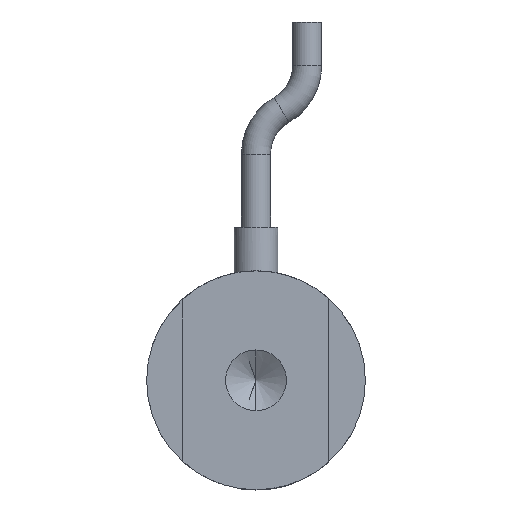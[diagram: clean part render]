
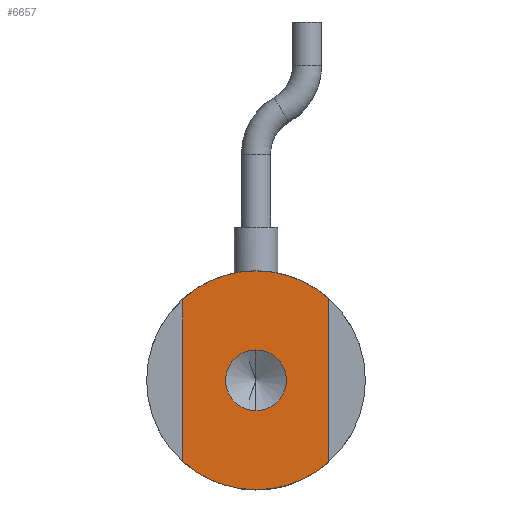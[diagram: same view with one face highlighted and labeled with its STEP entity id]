
A CAD part, front view. The second image highlights one B-rep face of the part: STEP entity #6657.
In plain terms, the highlighted planar face has unit normal (0, -1, 0).
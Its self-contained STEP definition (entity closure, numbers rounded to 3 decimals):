
#30 = DIRECTION ( 'NONE',  ( 0., -1., 0. ) ) ;
#76 = VECTOR ( 'NONE', #34519, 1000. ) ;
#101 = EDGE_CURVE ( 'NONE', #41810, #19982, #10745, .T. ) ;
#2604 = CARTESIAN_POINT ( 'NONE',  ( 3., 4.688, 3.459 ) ) ;
#5998 = EDGE_CURVE ( 'NONE', #21255, #16911, #39666, .T. ) ;
#6657 = ADVANCED_FACE ( 'NONE', ( #23581, #24599 ), #11957, .F. ) ;
#7547 = CARTESIAN_POINT ( 'NONE',  ( 0.007, 4.688, 1.349 ) ) ;
#8764 = CARTESIAN_POINT ( 'NONE',  ( 0.007, 4.688, 0.099 ) ) ;
#9804 = CARTESIAN_POINT ( 'NONE',  ( 0.007, 4.688, 4.599 ) ) ;
#9846 = CIRCLE ( 'NONE', #31131, 4.5 ) ;
#9889 = ORIENTED_EDGE ( 'NONE', *, *, #20505, .F. ) ;
#10745 = CIRCLE ( 'NONE', #13349, 4.5 ) ;
#11957 = PLANE ( 'NONE',  #35367 ) ;
#12097 = DIRECTION ( 'NONE',  ( 0., 1., 0. ) ) ;
#12255 = ORIENTED_EDGE ( 'NONE', *, *, #25620, .F. ) ;
#12320 = CARTESIAN_POINT ( 'NONE',  ( -3., 4.688, 3.447 ) ) ;
#12669 = EDGE_CURVE ( 'NONE', #35038, #39206, #26523, .T. ) ;
#12833 = VERTEX_POINT ( 'NONE', #15511 ) ;
#12847 = CARTESIAN_POINT ( 'NONE',  ( 0.007, 4.688, 0.099 ) ) ;
#13349 = AXIS2_PLACEMENT_3D ( 'NONE', #37969, #34771, #21567 ) ;
#13483 = CIRCLE ( 'NONE', #32752, 4.5 ) ;
#13877 = CIRCLE ( 'NONE', #38932, 1.25 ) ;
#14525 = LINE ( 'NONE', #18596, #33189 ) ;
#15511 = CARTESIAN_POINT ( 'NONE',  ( 3., 4.688, -3.262 ) ) ;
#16162 = DIRECTION ( 'NONE',  ( 0., 0., 1. ) ) ;
#16581 = DIRECTION ( 'NONE',  ( 0., 1., 0. ) ) ;
#16800 = CARTESIAN_POINT ( 'NONE',  ( 0.007, 4.688, -4.401 ) ) ;
#16911 = VERTEX_POINT ( 'NONE', #42939 ) ;
#17274 = ORIENTED_EDGE ( 'NONE', *, *, #38893, .F. ) ;
#17688 = AXIS2_PLACEMENT_3D ( 'NONE', #12847, #36027, #16162 ) ;
#18022 = DIRECTION ( 'NONE',  ( 0., -1., 0. ) ) ;
#18366 = DIRECTION ( 'NONE',  ( 0., 1., 0. ) ) ;
#18596 = CARTESIAN_POINT ( 'NONE',  ( 3., 4.688, -16.289 ) ) ;
#19245 = ORIENTED_EDGE ( 'NONE', *, *, #12669, .T. ) ;
#19852 = CARTESIAN_POINT ( 'NONE',  ( 0.007, 4.688, 0.099 ) ) ;
#19982 = VERTEX_POINT ( 'NONE', #2604 ) ;
#20505 = EDGE_CURVE ( 'NONE', #12833, #29435, #13483, .T. ) ;
#21255 = VERTEX_POINT ( 'NONE', #7547 ) ;
#21443 = EDGE_CURVE ( 'NONE', #29435, #39206, #9846, .T. ) ;
#21567 = DIRECTION ( 'NONE',  ( 0., 0., 1. ) ) ;
#22605 = ORIENTED_EDGE ( 'NONE', *, *, #5998, .F. ) ;
#23222 = DIRECTION ( 'NONE',  ( 0., 0., -1. ) ) ;
#23581 = FACE_BOUND ( 'NONE', #35548, .T. ) ;
#24599 = FACE_OUTER_BOUND ( 'NONE', #29010, .T. ) ;
#24657 = CARTESIAN_POINT ( 'NONE',  ( -3., 4.688, -16.289 ) ) ;
#25620 = EDGE_CURVE ( 'NONE', #16911, #21255, #13877, .T. ) ;
#26523 = LINE ( 'NONE', #24657, #76 ) ;
#27330 = AXIS2_PLACEMENT_3D ( 'NONE', #37909, #18022, #41248 ) ;
#29010 = EDGE_LOOP ( 'NONE', ( #37052, #36508, #17274, #19245, #43054, #9889 ) ) ;
#29435 = VERTEX_POINT ( 'NONE', #16800 ) ;
#31131 = AXIS2_PLACEMENT_3D ( 'NONE', #38261, #18366, #41595 ) ;
#32752 = AXIS2_PLACEMENT_3D ( 'NONE', #36461, #16581, #39793 ) ;
#33189 = VECTOR ( 'NONE', #35145, 1000. ) ;
#34519 = DIRECTION ( 'NONE',  ( 0., 0., -1. ) ) ;
#34771 = DIRECTION ( 'NONE',  ( 0., 1., 0. ) ) ;
#35038 = VERTEX_POINT ( 'NONE', #12320 ) ;
#35145 = DIRECTION ( 'NONE',  ( 0., 0., 1. ) ) ;
#35267 = DIRECTION ( 'NONE',  ( 0., 0., 1. ) ) ;
#35367 = AXIS2_PLACEMENT_3D ( 'NONE', #8764, #12097, #35267 ) ;
#35548 = EDGE_LOOP ( 'NONE', ( #12255, #22605 ) ) ;
#36027 = DIRECTION ( 'NONE',  ( 0., 1., 0. ) ) ;
#36372 = CIRCLE ( 'NONE', #17688, 4.5 ) ;
#36461 = CARTESIAN_POINT ( 'NONE',  ( 0.007, 4.688, 0.099 ) ) ;
#36508 = ORIENTED_EDGE ( 'NONE', *, *, #101, .F. ) ;
#37052 = ORIENTED_EDGE ( 'NONE', *, *, #40695, .T. ) ;
#37909 = CARTESIAN_POINT ( 'NONE',  ( 0.007, 4.688, 0.099 ) ) ;
#37969 = CARTESIAN_POINT ( 'NONE',  ( 0.007, 4.688, 0.099 ) ) ;
#38261 = CARTESIAN_POINT ( 'NONE',  ( 0.007, 4.688, 0.099 ) ) ;
#38893 = EDGE_CURVE ( 'NONE', #35038, #41810, #36372, .T. ) ;
#38922 = CARTESIAN_POINT ( 'NONE',  ( -3., 4.688, -3.249 ) ) ;
#38932 = AXIS2_PLACEMENT_3D ( 'NONE', #19852, #30, #23222 ) ;
#39206 = VERTEX_POINT ( 'NONE', #38922 ) ;
#39666 = CIRCLE ( 'NONE', #27330, 1.25 ) ;
#39793 = DIRECTION ( 'NONE',  ( 0., 0., 1. ) ) ;
#40695 = EDGE_CURVE ( 'NONE', #12833, #19982, #14525, .T. ) ;
#41248 = DIRECTION ( 'NONE',  ( 0., 0., -1. ) ) ;
#41595 = DIRECTION ( 'NONE',  ( 0., 0., 1. ) ) ;
#41810 = VERTEX_POINT ( 'NONE', #9804 ) ;
#42939 = CARTESIAN_POINT ( 'NONE',  ( 0.007, 4.688, -1.151 ) ) ;
#43054 = ORIENTED_EDGE ( 'NONE', *, *, #21443, .F. ) ;
